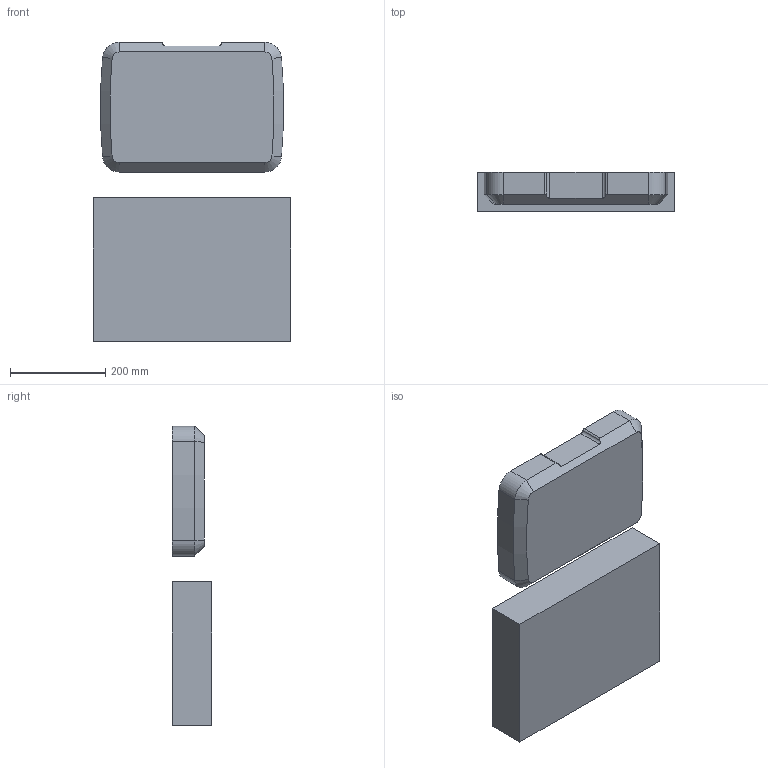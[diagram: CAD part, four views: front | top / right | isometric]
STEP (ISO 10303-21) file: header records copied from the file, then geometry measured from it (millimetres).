
FILE_DESCRIPTION (( 'STEP AP203' ), '1' );
FILE_NAME ('STA-300-367-V01.STEP', '2020-03-05T15:17:03', ( '' ), ( '' ), 'SwSTEP 2.0', 'SolidWorks 2018', '' );
FILE_SCHEMA (( 'CONFIG_CONTROL_DESIGN' ));
Length unit declared in the file: millimetre
Products named in the file (1): STA-300-367-V01
Bounding box: 415 x 82 x 627.73 mm (x, y, z)
Volume: 10277060 mm3; surface area: 708538.1 mm2
Topology: 2 solids, 2 shells, 53 faces, 128 edges, 80 vertices
Faces by surface type: plane 21, cylinder 20, cone 12
Entity records: 1613 total; most frequent: CARTESIAN_POINT 286, DIRECTION 272, ORIENTED_EDGE 256, EDGE_CURVE 128, AXIS2_PLACEMENT_3D 98, VERTEX_POINT 80, VECTOR 76, LINE 76
